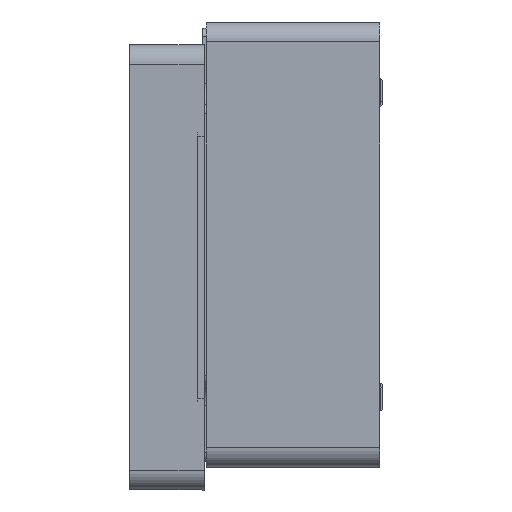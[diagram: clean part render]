
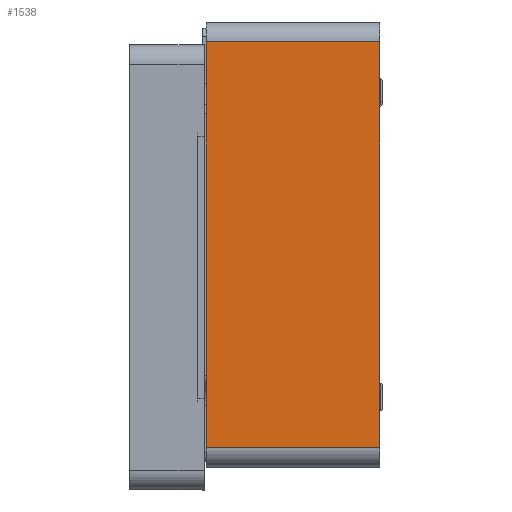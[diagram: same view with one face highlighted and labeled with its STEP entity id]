
A CAD part, left-side view. The second image highlights one B-rep face of the part: STEP entity #1538.
In plain terms, the highlighted planar face has unit normal (-1, 0, 0).
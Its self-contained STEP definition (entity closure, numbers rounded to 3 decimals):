
#1056 = EDGE_LOOP ( 'NONE', ( #17643, #18762, #18427, #12686 ) ) ;
#1086 = CARTESIAN_POINT ( 'NONE',  ( -140., 70., -82. ) ) ;
#1538 = ADVANCED_FACE ( 'NONE', ( #19896 ), #9656, .F. ) ;
#1986 = CARTESIAN_POINT ( 'NONE',  ( -140., 70., -90. ) ) ;
#3031 = VECTOR ( 'NONE', #10196, 1000. ) ;
#3548 = DIRECTION ( 'NONE',  ( 0., 0., 1. ) ) ;
#5380 = VERTEX_POINT ( 'NONE', #1086 ) ;
#7705 = EDGE_CURVE ( 'NONE', #5380, #18750, #17352, .T. ) ;
#7731 = LINE ( 'NONE', #17560, #20178 ) ;
#8550 = VECTOR ( 'NONE', #25770, 1000. ) ;
#8589 = CARTESIAN_POINT ( 'NONE',  ( -140., 0., -82. ) ) ;
#9656 = PLANE ( 'NONE',  #21589 ) ;
#9778 = CARTESIAN_POINT ( 'NONE',  ( -140., 0., 82. ) ) ;
#10196 = DIRECTION ( 'NONE',  ( 0., 0., 1. ) ) ;
#11237 = LINE ( 'NONE', #19463, #8550 ) ;
#11953 = CARTESIAN_POINT ( 'NONE',  ( -140., 70., -90. ) ) ;
#12686 = ORIENTED_EDGE ( 'NONE', *, *, #7705, .T. ) ;
#13553 = VERTEX_POINT ( 'NONE', #14795 ) ;
#13688 = DIRECTION ( 'NONE',  ( 1., 0., 0. ) ) ;
#14457 = VERTEX_POINT ( 'NONE', #9778 ) ;
#14795 = CARTESIAN_POINT ( 'NONE',  ( -140., 70., 82. ) ) ;
#15333 = DIRECTION ( 'NONE',  ( 0., -1., 0. ) ) ;
#17352 = LINE ( 'NONE', #25696, #18686 ) ;
#17560 = CARTESIAN_POINT ( 'NONE',  ( -140., 0., -90. ) ) ;
#17643 = ORIENTED_EDGE ( 'NONE', *, *, #18142, .T. ) ;
#18142 = EDGE_CURVE ( 'NONE', #18750, #14457, #7731, .T. ) ;
#18297 = EDGE_CURVE ( 'NONE', #14457, #13553, #11237, .T. ) ;
#18427 = ORIENTED_EDGE ( 'NONE', *, *, #22361, .F. ) ;
#18686 = VECTOR ( 'NONE', #15333, 1000. ) ;
#18750 = VERTEX_POINT ( 'NONE', #8589 ) ;
#18762 = ORIENTED_EDGE ( 'NONE', *, *, #18297, .T. ) ;
#19463 = CARTESIAN_POINT ( 'NONE',  ( -140., 70., 82. ) ) ;
#19896 = FACE_OUTER_BOUND ( 'NONE', #1056, .T. ) ;
#20178 = VECTOR ( 'NONE', #3548, 1000. ) ;
#20694 = LINE ( 'NONE', #1986, #3031 ) ;
#21589 = AXIS2_PLACEMENT_3D ( 'NONE', #11953, #13688, #22177 ) ;
#22177 = DIRECTION ( 'NONE',  ( 0., 0., -1. ) ) ;
#22361 = EDGE_CURVE ( 'NONE', #5380, #13553, #20694, .T. ) ;
#25696 = CARTESIAN_POINT ( 'NONE',  ( -140., 70., -82. ) ) ;
#25770 = DIRECTION ( 'NONE',  ( 0., 1., 0. ) ) ;
